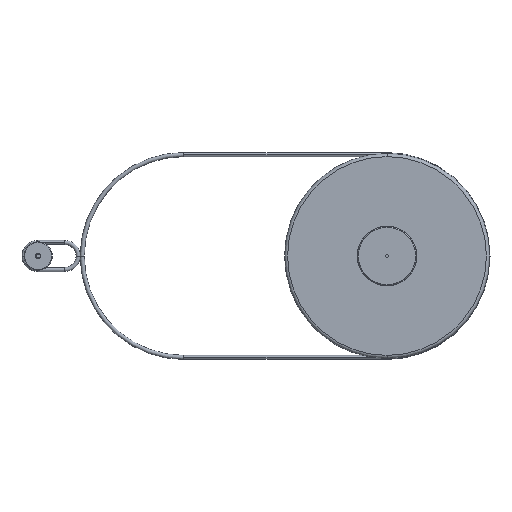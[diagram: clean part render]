
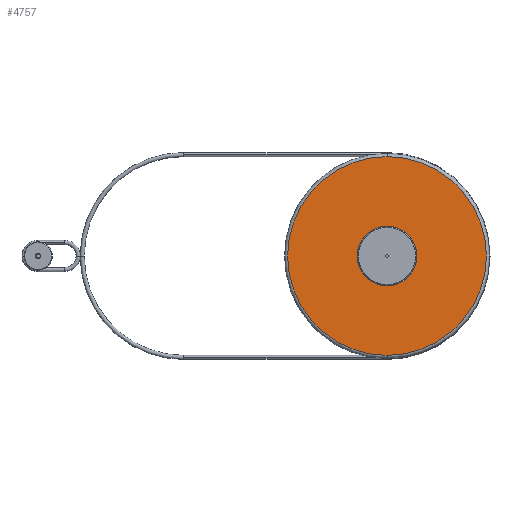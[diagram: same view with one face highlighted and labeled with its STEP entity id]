
A CAD part, left-side view. The second image highlights one B-rep face of the part: STEP entity #4757.
In plain terms, the highlighted planar face has unit normal (-1, 0, 0) as drawn and (0, 0, -1) by its records, which use the part's own axes.
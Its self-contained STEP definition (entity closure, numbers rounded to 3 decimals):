
#546 = ORIENTED_EDGE ( 'NONE', *, *, #4688, .T. ) ;
#594 = VERTEX_POINT ( 'NONE', #1106 ) ;
#606 = CARTESIAN_POINT ( 'NONE',  ( 44., 0., -24.003 ) ) ;
#642 = ORIENTED_EDGE ( 'NONE', *, *, #2935, .F. ) ;
#817 = DIRECTION ( 'NONE',  ( -1., 0., 0. ) ) ;
#914 = CIRCLE ( 'NONE', #3757, 44. ) ;
#1106 = CARTESIAN_POINT ( 'NONE',  ( 146.954, 0., -24.003 ) ) ;
#1119 = EDGE_CURVE ( 'NONE', #594, #2519, #1722, .T. ) ;
#1166 = AXIS2_PLACEMENT_3D ( 'NONE', #2133, #5204, #5223 ) ;
#1436 = DIRECTION ( 'NONE',  ( 0., 0., -1. ) ) ;
#1722 = CIRCLE ( 'NONE', #4009, 146.954 ) ;
#1898 = CARTESIAN_POINT ( 'NONE',  ( -146.954, 0., -24.003 ) ) ;
#1952 = DIRECTION ( 'NONE',  ( -1., 0., 0. ) ) ;
#2006 = VERTEX_POINT ( 'NONE', #606 ) ;
#2133 = CARTESIAN_POINT ( 'NONE',  ( 0., 0., -24.003 ) ) ;
#2285 = DIRECTION ( 'NONE',  ( 0., 0., -1. ) ) ;
#2501 = CARTESIAN_POINT ( 'NONE',  ( -44., 0., -24.003 ) ) ;
#2519 = VERTEX_POINT ( 'NONE', #1898 ) ;
#2774 = AXIS2_PLACEMENT_3D ( 'NONE', #3783, #2285, #817 ) ;
#2935 = EDGE_CURVE ( 'NONE', #3360, #2006, #5822, .T. ) ;
#2975 = CARTESIAN_POINT ( 'NONE',  ( 0., 0., -24.003 ) ) ;
#3219 = FACE_OUTER_BOUND ( 'NONE', #5415, .T. ) ;
#3360 = VERTEX_POINT ( 'NONE', #2501 ) ;
#3645 = DIRECTION ( 'NONE',  ( 0., 0., -1. ) ) ;
#3708 = EDGE_CURVE ( 'NONE', #2006, #3360, #914, .T. ) ;
#3757 = AXIS2_PLACEMENT_3D ( 'NONE', #2975, #1436, #1952 ) ;
#3783 = CARTESIAN_POINT ( 'NONE',  ( -146.954, 0., -24.003 ) ) ;
#3809 = CARTESIAN_POINT ( 'NONE',  ( 0., 0., -24.003 ) ) ;
#3914 = AXIS2_PLACEMENT_3D ( 'NONE', #4190, #3645, #4729 ) ;
#4009 = AXIS2_PLACEMENT_3D ( 'NONE', #3809, #4810, #5320 ) ;
#4098 = ORIENTED_EDGE ( 'NONE', *, *, #1119, .T. ) ;
#4190 = CARTESIAN_POINT ( 'NONE',  ( 0., 0., -24.003 ) ) ;
#4317 = PLANE ( 'NONE',  #2774 ) ;
#4688 = EDGE_CURVE ( 'NONE', #2519, #594, #5729, .T. ) ;
#4729 = DIRECTION ( 'NONE',  ( -1., 0., 0. ) ) ;
#4757 = ADVANCED_FACE ( 'NONE', ( #5804, #3219 ), #4317, .T. ) ;
#4810 = DIRECTION ( 'NONE',  ( 0., 0., -1. ) ) ;
#5193 = ORIENTED_EDGE ( 'NONE', *, *, #3708, .F. ) ;
#5204 = DIRECTION ( 'NONE',  ( 0., 0., -1. ) ) ;
#5223 = DIRECTION ( 'NONE',  ( -1., 0., 0. ) ) ;
#5237 = EDGE_LOOP ( 'NONE', ( #642, #5193 ) ) ;
#5320 = DIRECTION ( 'NONE',  ( -1., 0., 0. ) ) ;
#5415 = EDGE_LOOP ( 'NONE', ( #546, #4098 ) ) ;
#5729 = CIRCLE ( 'NONE', #1166, 146.954 ) ;
#5804 = FACE_BOUND ( 'NONE', #5237, .T. ) ;
#5822 = CIRCLE ( 'NONE', #3914, 44. ) ;
